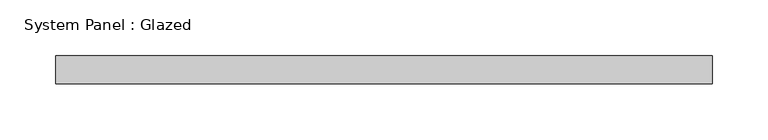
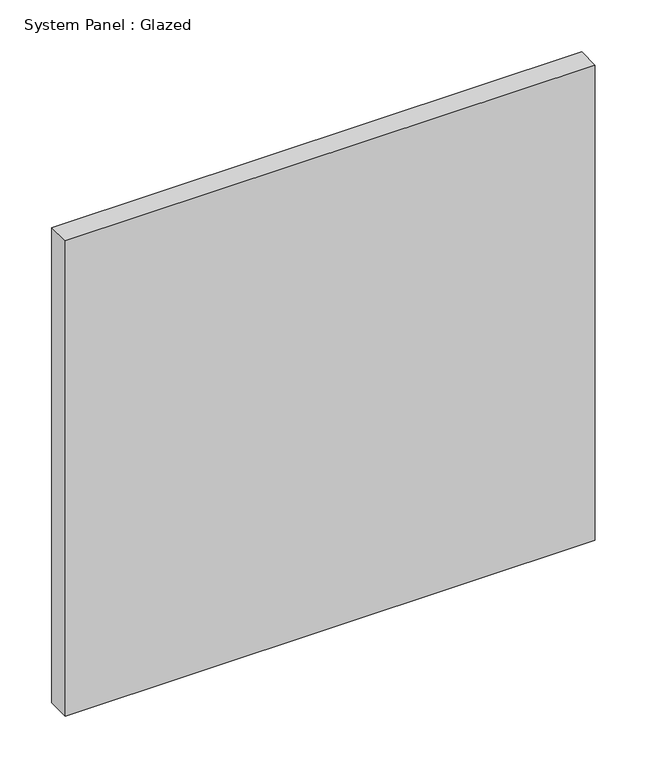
"""IFC4 building model written with IfcOpenShell, lengths in millimetres: plate geometry, System Panel : Glazed."""

from ifc_helpers import new_model, si_unit, origin, origin_with_axes, place, context, project, spatial, polyline, outline, extrude, source, transform, mapped, element, save


def system_panel_glazed_26de1e18(model_context):
    return source(origin(), model_context, "Body", "SweptSolid", [
        extrude(outline(polyline([(294.7449409, -12.7), (-294.7449409, -12.7), (-294.7449409, 12.7), (294.7449409, 12.7), (294.7449409, -12.7)])), origin_with_axes(), (0.0, 0.0, 1.0), 558.8),
    ])


if __name__ == "__main__":
    model = new_model("IFC4")
    model_context = context("Model", 3, world=origin())
    ifc_project = project(units=[si_unit("LENGTHUNIT", "METRE", prefix="MILLI")], contexts=[model_context])
    site = spatial("IfcSite", under=ifc_project)
    building = spatial("IfcBuilding", under=site)
    placement = place(None, origin())
    system_panel_glazed_shape = system_panel_glazed_26de1e18(model_context)
    element("IfcPlate", 1, ObjectType="System Panel : Glazed", at=placement, inside=building, context=model_context, shape_type="MappedRepresentation", body=[
        mapped(system_panel_glazed_shape, transform((0.0, 0.0, 0.0), x_axis=(1.0, 0.0, 0.0), y_axis=(0.0, 1.0, 0.0), z_axis=(0.0, 0.0, 1.0))),
    ])
    save(model, "model.ifc")
